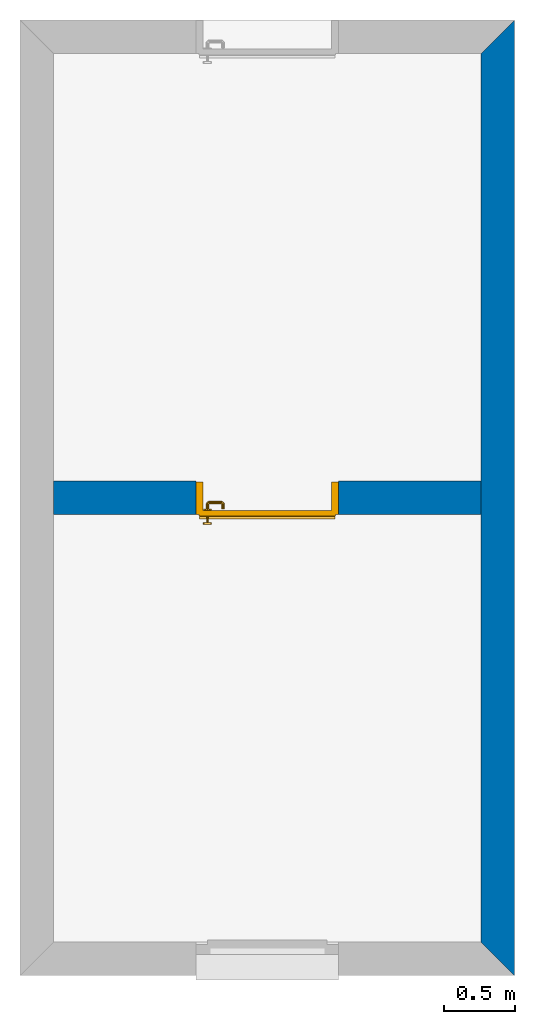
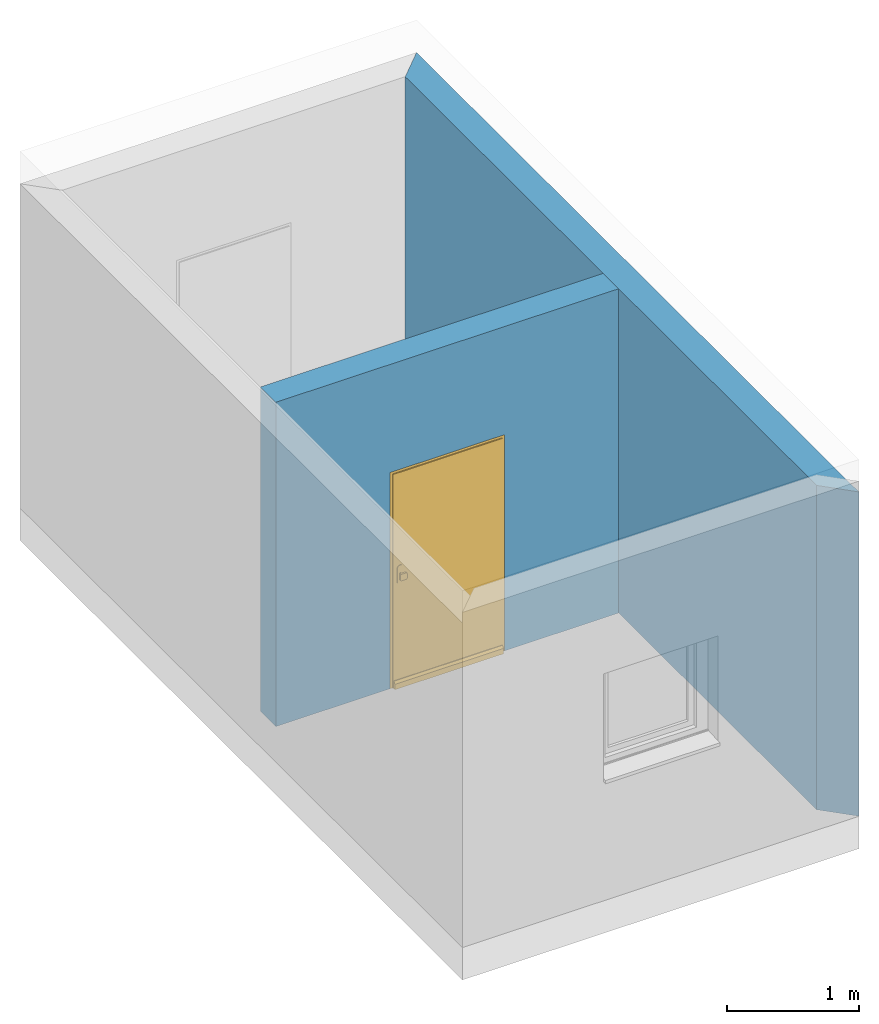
# One storey, part 2 of 4: 2 walls, 1 door, 1 opening.
"""IFC2X3 building model written with IfcOpenShell, lengths in millimetres."""

from ifc_helpers import new_model, entity, si_unit, converted_unit, money_unit, direction, frame, origin_with_axes, origin_2d_with_axis, place, context, subcontext, project, spatial, polyline, rectangle, outline, extrude, open_shell, faceted_brep, surface_model, source, transform, mapped, material, layer, layer_set, layer_usage, type_object, element, fill, save


model = new_model("IFC2X3")

# Units and contexts
model_context = context("Model", 3, precision=1e-05, world=origin_with_axes(), true_north=direction((0.0, 1.0)))
body_context = subcontext(model_context, "Body", "Model", "MODEL_VIEW")
ifc_project = project(units=[si_unit("LENGTHUNIT", "METRE", prefix="MILLI"), si_unit("AREAUNIT", "SQUARE_METRE"), si_unit("VOLUMEUNIT", "CUBIC_METRE"), converted_unit("PLANEANGLEUNIT", "DEGREE", entity("IfcPlaneAngleMeasure", 0.0174532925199), si_unit("PLANEANGLEUNIT", "RADIAN"), dimensions=[0, 0, 0, 0, 0, 0, 0]), si_unit("SOLIDANGLEUNIT", "STERADIAN"), money_unit("CHF"), converted_unit("TIMEUNIT", "Year", entity("IfcTimeMeasure", 31556926.0), si_unit("TIMEUNIT", "SECOND"), dimensions=[0, 0, 0, 0, 0, 0, 0]), si_unit("MASSUNIT", "GRAM"), si_unit("THERMODYNAMICTEMPERATUREUNIT", "DEGREE_CELSIUS"), si_unit("LUMINOUSINTENSITYUNIT", "LUMEN")], contexts=[model_context])

# Site, building, storey
site_placement = place(None, origin_with_axes())
site = spatial("IfcSite", under=ifc_project, at=site_placement, Name="Gel\x8ande", CompositionType="ELEMENT")
building_placement = place(site_placement, origin_with_axes())
building = spatial("IfcBuilding", under=site, at=building_placement, Name="Geb\x8aude", CompositionType="ELEMENT")
storey_placement = place(building_placement, frame((0.0, 0.0, 3100.0), z_axis=(0.0, 0.0, 1.0), x_axis=(1.0, 0.0, 0.0)))
storey = spatial("IfcBuildingStorey", under=building, at=storey_placement, Name="TowZone", CompositionType="ELEMENT", Elevation=3100.0)

# Wall
ifc_material_1 = material(Name="Verputz, Innen")
ifc_layer_1 = layer(ifc_material_1, 15.0, ventilated="UNKNOWN")
ifc_material_2 = material(Name="Beton, Stahlbeton")
ifc_layer_2 = layer(ifc_material_2, 200.0, ventilated="UNKNOWN")
ifc_material_3 = material(Name="Verputz, Aussen")
ifc_layer_3 = layer(ifc_material_3, 20.0, ventilated="UNKNOWN")
ifc_layer_set = layer_set([ifc_layer_1, ifc_layer_2, ifc_layer_3], Name="OneZone")
ifc_layer_usage_1 = layer_usage(ifc_layer_set, "AXIS2", "POSITIVE", 2.77555756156e-14)
wall_type = type_object("IfcWallType", Name="OneZone 235", PredefinedType="NOTDEFINED")
wall_1_placement = place(storey_placement, frame((5841.86610583, 3470.0, 0.0), z_axis=(0.0, 0.0, 1.0), x_axis=(0.0, -1.0, 0.0)))
element("IfcWallStandardCase", 1, at=wall_1_placement, inside=storey, type_object=wall_type, material=ifc_layer_usage_1, Name="Wand-001", context=body_context, shape_type="SweptSolid", body=[
    extrude(outline(polyline([(235.0, 0.0), (6470.0, 0.0), (6705.0, 235.0), (0.0, 235.0), (235.0, 0.0)])), origin_with_axes(), (0.0, 0.0, 1.0), 3000.0),
])

# Wall, opening, door
ifc_layer_usage_2 = layer_usage(ifc_layer_set, "AXIS2", "NEGATIVE", 235.0)
wall_2_placement = place(storey_placement, frame((5841.86610583, 235.0, 0.0), z_axis=(0.0, 0.0, 1.0), x_axis=(-1.0, 0.0, 0.0)))
wall_2 = element("IfcWallStandardCase", 2, at=wall_2_placement, inside=storey, type_object=wall_type, material=ifc_layer_usage_2, Name="Wand-001", context=body_context, shape_type="SweptSolid", body=[
    extrude(outline(polyline([(0.0, 0.0), (3000.0, 0.0), (3000.0, 235.0), (0.0, 235.0), (0.0, 0.0)])), origin_with_axes(), (0.0, 0.0, 1.0), 3000.0),
])
opening_placement = place(wall_2_placement, frame((1500.0, 0.0, 0.0), z_axis=(0.0, 0.0, 1.0), x_axis=(1.0, 0.0, 0.0)))
opening = element("IfcOpeningElement", 3, at=opening_placement, cuts=wall_2, Name="T\x9fr-001", context=body_context, shape_type="SweptSolid", body=[
    extrude(rectangle(XDim=1000.0, YDim=2000.0, at=origin_2d_with_axis()), frame((0.0, -235.0, 1000.0), z_axis=(0.0, -1.0, 0.0), x_axis=(-1.0, 0.0, 0.0)), (0.0, 0.0, -1.0), 705.0),
])
door_style = type_object("IfcDoorStyle", Name="Eingangst\x9fr 18", ConstructionType="NOTDEFINED", OperationType="SINGLE_SWING_LEFT", ParameterTakesPrecedence=False, Sizeable=False)
shared_shape = source(origin_with_axes(), body_context, "Body", "SurfaceModel", [
    faceted_brep([(-500.0, -230.0, 0.0), (-500.0, -230.0, 2000.0), (-500.0, -30.0, 2000.0), (-500.0, -30.0, 0.0), (-450.0, -230.0, 0.0), (-450.0, -230.0, 1950.0), (-130.1, -230.0, 1950.0), (-0.1, -230.0, 1950.0), (450.0, -230.0, 1950.0), (450.0, -230.0, 0.0), (500.0, -230.0, 0.0), (500.0, -230.0, 2000.0), (500.0, -30.0, 2000.0), (500.0, -30.0, 0.0), (450.0, -30.0, 0.0), (450.0, -30.0, 1950.0), (-0.1, -30.0, 1950.0), (-130.1, -30.0, 1950.0), (-450.0, -30.0, 1950.0), (-450.0, -30.0, 0.0)], [[[0, 1, 2, 3]], [[0, 4, 5, 6, 7, 8, 9, 10, 11, 1]], [[1, 11, 12, 2]], [[3, 2, 12, 13, 14, 15, 16, 17, 18, 19]], [[4, 0, 3, 19]], [[5, 4, 19, 18]], [[6, 5, 18, 17]], [[7, 6, 17, 16]], [[8, 7, 16, 15]], [[9, 8, 15, 14]], [[10, 9, 14, 13]], [[11, 10, 13, 12]]]),
    faceted_brep([(-500.0, -30.0, 0.0), (-500.0, -30.0, 2000.0), (-500.0, 0.0, 2000.0), (-500.0, 0.0, 0.0), (-480.0, -30.0, 0.0), (-480.0, -30.0, 1980.0), (-100.1, -30.0, 1980.0), (-30.1, -30.0, 1980.0), (480.0, -30.0, 1980.0), (480.0, -30.0, 0.0), (500.0, -30.0, 0.0), (500.0, -30.0, 2000.0), (500.0, 0.0, 2000.0), (500.0, 0.0, 0.0), (480.0, 0.0, 0.0), (480.0, 0.0, 1980.0), (-30.1, 0.0, 1980.0), (-100.1, 0.0, 1980.0), (-480.0, 0.0, 1980.0), (-480.0, 0.0, 0.0)], [[[0, 1, 2, 3]], [[0, 4, 5, 6, 7, 8, 9, 10, 11, 1]], [[1, 11, 12, 2]], [[3, 2, 12, 13, 14, 15, 16, 17, 18, 19]], [[4, 0, 3, 19]], [[5, 4, 19, 18]], [[6, 5, 18, 17]], [[7, 6, 17, 16]], [[8, 7, 16, 15]], [[9, 8, 15, 14]], [[10, 9, 14, 13]], [[11, 10, 13, 12]]]),
    faceted_brep([(-480.0, 10.0, 0.0), (-480.0, 10.0, 1980.0), (480.0, 10.0, 1980.0), (480.0, 10.0, 0.0), (-480.0, -30.0, 0.0), (-480.0, -30.0, 1980.0), (480.0, -30.0, 1980.0), (480.0, -30.0, 0.0)], [[[0, 1, 2, 3]], [[0, 4, 5, 1]], [[1, 5, 6, 2]], [[2, 6, 7, 3]], [[3, 7, 4, 0]], [[7, 6, 5, 4]]]),
    faceted_brep([(-475.0, 30.0, 0.0), (-475.0, 30.0, 50.0), (475.0, 30.0, 50.0), (475.0, 30.0, 0.0), (-475.0, 10.0, 0.0), (-475.0, 10.0, 70.0), (-475.0, 15.0, 70.0), (475.0, 15.0, 70.0), (475.0, 10.0, 70.0), (475.0, 10.0, 0.0)], [[[0, 1, 2, 3]], [[0, 4, 5, 6, 1]], [[1, 6, 7, 2]], [[3, 2, 7, 8, 9]], [[4, 0, 3, 9]], [[5, 4, 9, 8]], [[6, 5, 8, 7]]]),
    faceted_brep([(433.5, -40.0, 1073.3826859), (433.5, -39.9, 1073.3826859), (420.0, -39.9, 1077.0), (420.0, -40.0, 1077.0), (443.382685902, -40.0, 1063.5), (443.382685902, -39.9, 1063.5), (433.5, -30.1, 1073.3826859), (420.0, -30.1, 1077.0), (406.5, -39.9, 1073.3826859), (406.5, -40.0, 1073.3826859), (396.617314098, -40.0, 1063.5), (393.0, -40.0, 1050.0), (396.617314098, -40.0, 1036.5), (406.5, -40.0, 1026.6173141), (420.0, -40.0, 1023.0), (433.5, -40.0, 1026.6173141), (443.382685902, -40.0, 1036.5), (447.0, -40.0, 1050.0), (447.0, -39.9, 1050.0), (443.382685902, -30.1, 1063.5), (433.5, -30.0, 1073.3826859), (420.0, -30.0, 1077.0), (406.5, -30.1, 1073.3826859), (396.617314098, -39.9, 1063.5), (393.0, -39.9, 1050.0), (396.617314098, -39.9, 1036.5), (406.5, -39.9, 1026.6173141), (420.0, -39.9, 1023.0), (433.5, -39.9, 1026.6173141), (443.382685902, -39.9, 1036.5), (447.0, -30.1, 1050.0), (443.382685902, -30.0, 1063.5), (447.0, -30.0, 1050.0), (443.382685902, -30.0, 1036.5), (433.5, -30.0, 1026.6173141), (420.0, -30.0, 1023.0), (406.5, -30.0, 1026.6173141), (396.617314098, -30.0, 1036.5), (393.0, -30.0, 1050.0), (396.617314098, -30.0, 1063.5), (406.5, -30.0, 1073.3826859), (396.617314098, -30.1, 1063.5), (393.0, -30.1, 1050.0), (396.617314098, -30.1, 1036.5), (406.5, -30.1, 1026.6173141), (420.0, -30.1, 1023.0), (433.5, -30.1, 1026.6173141), (443.382685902, -30.1, 1036.5)], [[[0, 1, 2, 3]], [[4, 5, 1, 0]], [[1, 6, 7, 2]], [[3, 2, 8, 9]], [[3, 9, 10, 11, 12, 13, 14, 15, 16, 17, 4, 0]], [[17, 18, 5, 4]], [[5, 19, 6, 1]], [[6, 20, 21, 7]], [[2, 7, 22, 8]], [[9, 8, 23, 10]], [[10, 23, 24, 11]], [[11, 24, 25, 12]], [[12, 25, 26, 13]], [[13, 26, 27, 14]], [[14, 27, 28, 15]], [[15, 28, 29, 16]], [[16, 29, 18, 17]], [[18, 30, 19, 5]], [[19, 31, 20, 6]], [[21, 20, 31, 32, 33, 34, 35, 36, 37, 38, 39, 40]], [[7, 21, 40, 22]], [[8, 22, 41, 23]], [[23, 41, 42, 24]], [[24, 42, 43, 25]], [[25, 43, 44, 26]], [[26, 44, 45, 27]], [[27, 45, 46, 28]], [[28, 46, 47, 29]], [[29, 47, 30, 18]], [[30, 32, 31, 19]], [[47, 33, 32, 30]], [[46, 34, 33, 47]], [[45, 35, 34, 46]], [[44, 36, 35, 45]], [[43, 37, 36, 44]], [[42, 38, 37, 43]], [[41, 39, 38, 42]], [[22, 40, 39, 41]]]),
    faceted_brep([(412.532169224, -40.0, 959.692280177), (413.279754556, -40.0, 961.639806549), (406.55, -40.0, 973.296083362), (396.703916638, -40.0, 963.45), (415.0, -40.0, 952.886751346), (415.0, -40.0, 954.4), (412.532169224, -39.0, 959.692280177), (413.279754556, -39.0, 961.639806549), (414.624817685, -39.0, 965.143815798), (414.624817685, -40.0, 965.143815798), (420.0, -40.0, 967.425445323), (420.0, -40.0, 976.9), (396.617314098, -40.0, 963.5), (406.5, -40.0, 973.382685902), (393.1, -40.0, 950.0), (415.0, -40.0, 950.0), (415.0, -40.0, 947.113248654), (415.0, -40.0, 941.339745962), (415.0, -40.0, 937.5), (415.0, -39.0, 937.5), (415.0, -39.0, 941.339745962), (415.0, -39.0, 947.113248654), (415.0, -39.0, 950.0), (415.0, -39.0, 952.886751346), (415.0, -39.0, 954.4), (397.569942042, -39.0, 962.95), (407.05, -39.0, 972.430057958), (420.0, -39.0, 975.9), (420.0, -39.0, 967.425445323), (425.375182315, -40.0, 965.143815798), (426.720245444, -40.0, 961.639806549), (433.45, -40.0, 973.296083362), (420.0, -40.0, 977.0), (393.0, -40.0, 950.0), (396.617314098, -39.9, 963.5), (406.5, -39.9, 973.382685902), (396.703916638, -40.0, 936.55), (406.55, -40.0, 926.703916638), (420.0, -40.0, 923.1), (420.0, -40.0, 932.5), (416.464466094, -40.0, 933.964466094), (416.464466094, -39.0, 933.964466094), (420.0, -39.0, 932.5), (420.0, -39.0, 924.1), (407.05, -39.0, 927.569942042), (397.569942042, -39.0, 937.05), (394.1, -39.0, 950.0), (397.483339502, -39.0, 963.0), (407.0, -39.0, 972.516660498), (420.0, -39.0, 976.0), (425.375182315, -39.0, 965.143815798), (432.95, -39.0, 972.430057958), (426.720245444, -39.0, 961.639806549), (427.467830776, -39.0, 959.692280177), (427.467830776, -40.0, 959.692280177), (425.0, -40.0, 954.4), (425.0, -40.0, 952.886751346), (443.296083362, -40.0, 963.45), (433.5, -40.0, 973.382685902), (420.0, -39.9, 977.0), (396.617314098, -40.0, 936.5), (393.0, -39.9, 950.0), (396.617314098, -30.1, 963.5), (406.5, -30.1, 973.382685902), (406.5, -40.0, 926.617314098), (420.0, -40.0, 923.0), (423.535533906, -40.0, 933.964466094), (433.45, -40.0, 926.703916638), (425.0, -40.0, 941.339745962), (425.0, -40.0, 937.5), (425.0, -39.0, 937.5), (425.0, -39.0, 941.339745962), (432.95, -39.0, 927.569942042), (423.535533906, -39.0, 933.964466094), (420.0, -39.0, 924.0), (407.0, -39.0, 927.483339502), (397.483339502, -39.0, 937.0), (394.0, -39.0, 950.0), (397.483339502, -38.9, 963.0), (407.0, -38.9, 972.516660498), (420.0, -38.9, 976.0), (433.0, -39.0, 972.516660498), (442.430057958, -39.0, 962.95), (425.0, -39.0, 952.886751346), (425.0, -39.0, 954.4), (425.0, -39.0, 950.0), (425.0, -39.0, 947.113248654), (425.0, -40.0, 947.113248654), (425.0, -40.0, 950.0), (446.9, -40.0, 950.0), (443.382685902, -40.0, 963.5), (433.5, -39.9, 973.382685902), (420.0, -30.1, 977.0), (396.617314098, -39.9, 936.5), (393.0, -30.1, 950.0), (396.617314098, -30.0, 963.5), (406.5, -30.0, 973.382685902), (406.5, -39.9, 926.617314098), (433.5, -40.0, 926.617314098), (420.0, -39.9, 923.0), (443.296083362, -40.0, 936.55), (442.430057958, -39.0, 937.05), (433.0, -39.0, 927.483339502), (420.0, -38.9, 924.0), (407.0, -38.9, 927.483339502), (397.483339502, -38.9, 937.0), (394.0, -38.9, 950.0), (397.483339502, -30.1, 963.0), (407.0, -30.1, 972.516660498), (420.0, -30.1, 976.0), (433.0, -38.9, 972.516660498), (442.516660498, -39.0, 963.0), (445.9, -39.0, 950.0), (447.0, -40.0, 950.0), (443.382685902, -39.9, 963.5), (433.5, -30.1, 973.382685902), (420.0, -30.0, 977.0), (396.617314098, -30.1, 936.5), (393.0, -30.0, 950.0), (396.703916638, -30.0, 963.45), (406.55, -30.0, 973.296083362), (406.5, -30.1, 926.617314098), (443.382685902, -40.0, 936.5), (433.5, -39.9, 926.617314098), (420.0, -30.1, 923.0), (442.516660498, -39.0, 937.0), (433.0, -38.9, 927.483339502), (420.0, -30.1, 924.0), (407.0, -30.1, 927.483339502), (397.483339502, -30.1, 937.0), (394.0, -30.1, 950.0), (397.483339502, -30.0, 963.0), (407.0, -30.0, 972.516660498), (420.0, -30.0, 976.0), (433.0, -30.1, 972.516660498), (442.516660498, -38.9, 963.0), (446.0, -39.0, 950.0), (447.0, -39.9, 950.0), (443.382685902, -30.1, 963.5), (433.5, -30.0, 973.382685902), (420.0, -30.0, 976.9), (396.617314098, -30.0, 936.5), (393.1, -30.0, 950.0), (397.396736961, -30.0, 963.05), (406.95, -30.0, 972.603263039), (406.5, -30.0, 926.617314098), (443.382685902, -39.9, 936.5), (433.5, -30.1, 926.617314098), (420.0, -30.0, 923.0), (442.516660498, -38.9, 937.0), (433.0, -30.1, 927.483339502), (420.0, -30.0, 924.0), (407.0, -30.0, 927.483339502), (397.483339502, -30.0, 937.0), (394.0, -30.0, 950.0), (420.0, -30.0, 976.1), (433.0, -30.0, 972.516660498), (442.516660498, -30.1, 963.0), (446.0, -38.9, 950.0), (447.0, -30.1, 950.0), (443.382685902, -30.0, 963.5), (433.45, -30.0, 973.296083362), (396.703916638, -30.0, 936.55), (393.9, -30.0, 950.0), (406.55, -30.0, 926.703916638), (443.382685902, -30.1, 936.5), (433.5, -30.0, 926.617314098), (420.0, -30.0, 923.1), (442.516660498, -30.1, 937.0), (433.0, -30.0, 927.483339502), (420.0, -30.0, 923.9), (406.95, -30.0, 927.396736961), (397.396736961, -30.0, 936.95), (433.05, -30.0, 972.603263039), (442.516660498, -30.0, 963.0), (446.0, -30.1, 950.0), (447.0, -30.0, 950.0), (443.296083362, -30.0, 963.45), (443.382685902, -30.0, 936.5), (433.45, -30.0, 926.703916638), (442.516660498, -30.0, 937.0), (433.05, -30.0, 927.396736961), (442.603263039, -30.0, 963.05), (446.0, -30.0, 950.0), (446.9, -30.0, 950.0), (443.296083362, -30.0, 936.55), (442.603263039, -30.0, 936.95), (446.1, -30.0, 950.0)], [[[0, 1, 2, 3, 4, 5]], [[0, 6, 7, 8, 9, 1]], [[9, 10, 11, 2, 1]], [[12, 3, 2, 13]], [[3, 14, 15, 4]], [[5, 4, 15, 16, 17, 18, 19, 20, 21, 22, 23, 24]], [[5, 24, 6, 0]], [[6, 24, 23, 25, 26, 7]], [[8, 7, 26, 27, 28]], [[9, 8, 28, 10]], [[29, 30, 31, 11, 10]], [[13, 2, 11, 32]], [[33, 14, 3, 12]], [[34, 12, 13, 35]], [[14, 36, 16, 15]], [[36, 37, 17, 16]], [[18, 17, 37, 38, 39, 40]], [[41, 19, 18, 40]], [[41, 42, 43, 44, 20, 19]], [[44, 45, 21, 20]], [[45, 46, 22, 21]], [[46, 25, 23, 22]], [[25, 47, 48, 26]], [[26, 48, 49, 27]], [[50, 28, 27, 51, 52]], [[10, 28, 50, 29]], [[29, 50, 52, 53, 54, 30]], [[54, 55, 56, 57, 31, 30]], [[32, 11, 31, 58]], [[35, 13, 32, 59]], [[60, 36, 14, 33]], [[61, 33, 12, 34]], [[62, 34, 35, 63]], [[64, 37, 36, 60]], [[65, 38, 37, 64]], [[66, 39, 38, 67, 68, 69]], [[42, 41, 40, 39]], [[70, 71, 72, 43, 42, 73]], [[43, 74, 75, 44]], [[44, 75, 76, 45]], [[45, 76, 77, 46]], [[46, 77, 47, 25]], [[47, 78, 79, 48]], [[48, 79, 80, 49]], [[27, 49, 81, 51]], [[53, 52, 51, 82, 83, 84]], [[54, 53, 84, 55]], [[84, 83, 85, 86, 71, 70, 69, 68, 87, 88, 56, 55]], [[89, 57, 56, 88]], [[58, 31, 57, 90]], [[59, 32, 58, 91]], [[63, 35, 59, 92]], [[93, 60, 33, 61]], [[94, 61, 34, 62]], [[95, 62, 63, 96]], [[97, 64, 60, 93]], [[98, 67, 38, 65]], [[99, 65, 64, 97]], [[73, 42, 39, 66]], [[67, 100, 87, 68]], [[70, 73, 66, 69]], [[101, 72, 71, 86]], [[72, 102, 74, 43]], [[74, 103, 104, 75]], [[75, 104, 105, 76]], [[76, 105, 106, 77]], [[77, 106, 78, 47]], [[78, 107, 108, 79]], [[79, 108, 109, 80]], [[49, 80, 110, 81]], [[51, 81, 111, 82]], [[82, 112, 85, 83]], [[112, 101, 86, 85]], [[100, 89, 88, 87]], [[90, 57, 89, 113]], [[91, 58, 90, 114]], [[92, 59, 91, 115]], [[96, 63, 92, 116]], [[117, 93, 61, 94]], [[118, 94, 62, 95]], [[119, 95, 96, 120]], [[121, 97, 93, 117]], [[122, 100, 67, 98]], [[123, 98, 65, 99]], [[124, 99, 97, 121]], [[101, 125, 102, 72]], [[102, 126, 103, 74]], [[103, 127, 128, 104]], [[104, 128, 129, 105]], [[105, 129, 130, 106]], [[106, 130, 107, 78]], [[107, 131, 132, 108]], [[108, 132, 133, 109]], [[80, 109, 134, 110]], [[81, 110, 135, 111]], [[82, 111, 136, 112]], [[112, 136, 125, 101]], [[113, 89, 100, 122]], [[114, 90, 113, 137]], [[115, 91, 114, 138]], [[116, 92, 115, 139]], [[120, 96, 116, 140]], [[141, 117, 94, 118]], [[142, 118, 95, 119]], [[143, 119, 120, 144]], [[145, 121, 117, 141]], [[146, 122, 98, 123]], [[147, 123, 99, 124]], [[148, 124, 121, 145]], [[125, 149, 126, 102]], [[126, 150, 127, 103]], [[127, 151, 152, 128]], [[128, 152, 153, 129]], [[129, 153, 154, 130]], [[130, 154, 131, 107]], [[131, 143, 144, 132]], [[132, 144, 155, 133]], [[109, 133, 156, 134]], [[110, 134, 157, 135]], [[111, 135, 158, 136]], [[136, 158, 149, 125]], [[137, 113, 122, 146]], [[138, 114, 137, 159]], [[139, 115, 138, 160]], [[140, 116, 139, 161]], [[144, 120, 140, 155]], [[162, 141, 118, 142]], [[163, 142, 119, 143]], [[164, 145, 141, 162]], [[165, 146, 123, 147]], [[166, 147, 124, 148]], [[167, 148, 145, 164]], [[149, 168, 150, 126]], [[150, 169, 151, 127]], [[151, 170, 171, 152]], [[152, 171, 172, 153]], [[153, 172, 163, 154]], [[154, 163, 143, 131]], [[133, 155, 173, 156]], [[134, 156, 174, 157]], [[135, 157, 175, 158]], [[158, 175, 168, 149]], [[159, 137, 146, 165]], [[160, 138, 159, 176]], [[161, 139, 160, 177]], [[155, 140, 161, 173]], [[172, 162, 142, 163]], [[171, 164, 162, 172]], [[178, 165, 147, 166]], [[179, 166, 148, 167]], [[170, 167, 164, 171]], [[168, 180, 169, 150]], [[169, 181, 170, 151]], [[156, 173, 182, 174]], [[157, 174, 183, 175]], [[175, 183, 180, 168]], [[176, 159, 165, 178]], [[177, 160, 176, 184]], [[173, 161, 177, 182]], [[185, 178, 166, 179]], [[181, 179, 167, 170]], [[180, 186, 181, 169]], [[174, 182, 187, 183]], [[183, 187, 186, 180]], [[184, 176, 178, 185]], [[182, 177, 184, 187]], [[186, 185, 179, 181]], [[187, 184, 185, 186]]]),
    surface_model("IfcShellBasedSurfaceModel", [(430.0, -40.0, 1050.0), (430.0, -70.9849140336, 1050.0), (427.071067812, -70.696439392, 1042.92893219), (427.071067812, -40.0, 1042.92893219), (427.071067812, -40.0, 1057.07106781), (427.071067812, -70.696439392, 1057.07106781), (428.277987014, -79.6420579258, 1050.0), (425.518993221, -78.4992452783, 1042.92893219), (420.0, -70.0, 1040.0), (420.0, -40.0, 1040.0), (420.0, -40.0, 1060.0), (420.0, -70.0, 1060.0), (425.518993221, -78.4992452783, 1057.07106781), (422.816199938, -87.8161999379, 1050.0), (420.704557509, -85.7045575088, 1042.92893219), (418.858192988, -75.7402514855, 1040.0), (412.928932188, -69.303560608, 1042.92893219), (412.928932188, -40.0, 1042.92893219), (412.928932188, -40.0, 1057.07106781), (412.928932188, -69.303560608, 1057.07106781), (418.858192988, -75.7402514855, 1060.0), (420.704557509, -85.7045575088, 1057.07106781), (414.642057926, -93.2779870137, 1050.0), (413.499245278, -90.5189932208, 1042.92893219), (415.606601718, -80.6066017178, 1040.0), (412.197392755, -72.9812576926, 1042.92893219), (410.0, -69.0150859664, 1050.0), (410.0, -40.0, 1050.0), (412.197392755, -72.9812576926, 1057.07106781), (415.606601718, -80.6066017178, 1060.0), (413.499245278, -90.5189932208, 1057.07106781), (405.984914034, -95.0, 1050.0), (405.696439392, -92.0710678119, 1042.92893219), (410.740251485, -83.8581929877, 1040.0), (410.508645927, -75.5086459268, 1042.92893219), (409.438398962, -71.8384450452, 1050.0), (410.508645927, -75.5086459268, 1057.07106781), (410.740251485, -83.8581929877, 1060.0), (405.696439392, -92.0710678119, 1057.07106781), (324.015085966, -95.0, 1050.0), (324.303560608, -92.0710678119, 1042.92893219), (405.0, -85.0, 1040.0), (407.981257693, -77.1973927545, 1042.92893219), (408.397003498, -73.3970034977, 1050.0), (407.981257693, -77.1973927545, 1057.07106781), (405.0, -85.0, 1060.0), (324.303560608, -92.0710678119, 1057.07106781), (315.357942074, -93.2779870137, 1050.0), (316.500754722, -90.5189932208, 1042.92893219), (325.0, -85.0, 1040.0), (404.303560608, -77.9289321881, 1042.92893219), (406.838445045, -74.4383989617, 1050.0), (404.303560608, -77.9289321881, 1057.07106781), (325.0, -85.0, 1060.0), (316.500754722, -90.5189932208, 1057.07106781), (307.183800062, -87.8161999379, 1050.0), (309.295442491, -85.7045575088, 1042.92893219), (319.259748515, -83.8581929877, 1040.0), (325.696439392, -77.9289321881, 1042.92893219), (404.015085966, -75.0, 1050.0), (325.696439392, -77.9289321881, 1057.07106781), (319.259748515, -83.8581929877, 1060.0), (309.295442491, -85.7045575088, 1057.07106781), (301.722012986, -79.6420579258, 1050.0), (304.481006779, -78.4992452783, 1042.92893219), (314.393398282, -80.6066017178, 1040.0), (322.018742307, -77.1973927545, 1042.92893219), (325.984914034, -75.0, 1050.0), (322.018742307, -77.1973927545, 1057.07106781), (314.393398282, -80.6066017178, 1060.0), (304.481006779, -78.4992452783, 1057.07106781), (300.0, -70.9849140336, 1050.0), (302.928932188, -70.696439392, 1042.92893219), (311.141807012, -75.7402514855, 1040.0), (319.491354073, -75.5086459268, 1042.92893219), (323.161554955, -74.4383989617, 1050.0), (319.491354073, -75.5086459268, 1057.07106781), (311.141807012, -75.7402514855, 1060.0), (302.928932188, -70.696439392, 1057.07106781), (300.0, -40.0, 1050.0), (302.928932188, -40.0, 1042.92893219), (310.0, -70.0, 1040.0), (317.802607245, -72.9812576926, 1042.92893219), (321.602996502, -73.3970034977, 1050.0), (317.802607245, -72.9812576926, 1057.07106781), (310.0, -70.0, 1060.0), (302.928932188, -40.0, 1057.07106781), (310.0, -40.0, 1060.0), (317.071067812, -40.0, 1057.07106781), (320.0, -40.0, 1050.0), (317.071067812, -40.0, 1042.92893219), (310.0, -40.0, 1040.0), (317.071067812, -69.303560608, 1042.92893219), (320.561601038, -71.8384450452, 1050.0), (317.071067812, -69.303560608, 1057.07106781), (320.0, -69.0150859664, 1050.0)], [open_shell([[[0, 1, 2, 3]], [[4, 5, 1, 0]], [[1, 6, 7, 2]], [[3, 2, 8, 9]], [[10, 11, 5, 4]], [[5, 12, 6, 1]], [[6, 13, 14, 7]], [[2, 7, 15, 8]], [[9, 8, 16, 17]], [[18, 19, 11, 10]], [[11, 20, 12, 5]], [[12, 21, 13, 6]], [[13, 22, 23, 14]], [[7, 14, 24, 15]], [[8, 15, 25, 16]], [[17, 16, 26, 27]], [[27, 26, 19, 18]], [[19, 28, 20, 11]], [[20, 29, 21, 12]], [[21, 30, 22, 13]], [[22, 31, 32, 23]], [[14, 23, 33, 24]], [[15, 24, 34, 25]], [[16, 25, 35, 26]], [[26, 35, 28, 19]], [[28, 36, 29, 20]], [[29, 37, 30, 21]], [[30, 38, 31, 22]], [[31, 39, 40, 32]], [[23, 32, 41, 33]], [[24, 33, 42, 34]], [[25, 34, 43, 35]], [[35, 43, 36, 28]], [[36, 44, 37, 29]], [[37, 45, 38, 30]], [[38, 46, 39, 31]], [[39, 47, 48, 40]], [[32, 40, 49, 41]], [[33, 41, 50, 42]], [[34, 42, 51, 43]], [[43, 51, 44, 36]], [[44, 52, 45, 37]], [[45, 53, 46, 38]], [[46, 54, 47, 39]], [[47, 55, 56, 48]], [[40, 48, 57, 49]], [[41, 49, 58, 50]], [[42, 50, 59, 51]], [[51, 59, 52, 44]], [[52, 60, 53, 45]], [[53, 61, 54, 46]], [[54, 62, 55, 47]], [[55, 63, 64, 56]], [[48, 56, 65, 57]], [[49, 57, 66, 58]], [[50, 58, 67, 59]], [[59, 67, 60, 52]], [[60, 68, 61, 53]], [[61, 69, 62, 54]], [[62, 70, 63, 55]], [[63, 71, 72, 64]], [[56, 64, 73, 65]], [[57, 65, 74, 66]], [[58, 66, 75, 67]], [[67, 75, 68, 60]], [[68, 76, 69, 61]], [[69, 77, 70, 62]], [[70, 78, 71, 63]], [[71, 79, 80, 72]], [[64, 72, 81, 73]], [[65, 73, 82, 74]], [[66, 74, 83, 75]], [[75, 83, 76, 68]], [[76, 84, 77, 69]], [[77, 85, 78, 70]], [[78, 86, 79, 71]], [[79, 86, 87, 88, 89, 90, 91, 80]], [[72, 80, 91, 81]], [[73, 81, 92, 82]], [[74, 82, 93, 83]], [[83, 93, 84, 76]], [[84, 94, 85, 77]], [[85, 87, 86, 78]], [[94, 88, 87, 85]], [[95, 89, 88, 94]], [[92, 90, 89, 95]], [[81, 91, 90, 92]], [[82, 92, 95, 93]], [[93, 95, 94, 84]]])]),
    faceted_brep([(414.696699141, 15.0, 1044.69669914), (420.0, 15.0, 1042.5), (425.303300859, 15.0, 1044.69669914), (427.5, 15.0, 1050.0), (425.303300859, 15.0, 1055.30330086), (420.0, 15.0, 1057.5), (414.696699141, 15.0, 1055.30330086), (412.5, 15.0, 1050.0), (414.696699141, 55.0, 1044.69669914), (420.0, 55.0, 1042.5), (425.303300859, 55.0, 1044.69669914), (427.5, 55.0, 1050.0), (425.303300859, 55.0, 1055.30330086), (420.0, 55.0, 1057.5), (414.696699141, 55.0, 1055.30330086), (412.5, 55.0, 1050.0)], [[[0, 1, 2, 3, 4, 5, 6, 7]], [[1, 0, 8, 9]], [[2, 1, 9, 10]], [[3, 2, 10, 11]], [[4, 3, 11, 12]], [[5, 4, 12, 13]], [[6, 5, 13, 14]], [[7, 6, 14, 15]], [[0, 7, 15, 8]], [[8, 15, 14, 13, 12, 11, 10, 9]]]),
    faceted_brep([(445.0, 10.0, 975.0), (443.096988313, 10.0, 965.432914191), (443.096988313, 15.0, 965.432914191), (445.0, 15.0, 975.0), (445.0, 10.0, 1100.0), (443.096988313, 10.0, 1109.56708581), (437.67766953, 10.0, 1117.67766953), (429.567085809, 10.0, 1123.09698831), (420.0, 10.0, 1125.0), (410.432914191, 10.0, 1123.09698831), (402.32233047, 10.0, 1117.67766953), (396.903011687, 10.0, 1109.56708581), (395.0, 10.0, 1100.0), (395.0, 10.0, 975.0), (396.903011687, 10.0, 965.432914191), (402.32233047, 10.0, 957.32233047), (410.432914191, 10.0, 951.903011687), (420.0, 10.0, 950.0), (429.567085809, 10.0, 951.903011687), (437.67766953, 10.0, 957.32233047), (437.67766953, 15.0, 957.32233047), (429.567085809, 15.0, 951.903011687), (420.0, 15.0, 950.0), (410.432914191, 15.0, 951.903011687), (402.32233047, 15.0, 957.32233047), (396.903011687, 15.0, 965.432914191), (395.0, 15.0, 975.0), (395.0, 15.0, 1100.0), (396.903011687, 15.0, 1109.56708581), (402.32233047, 15.0, 1117.67766953), (410.432914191, 15.0, 1123.09698831), (420.0, 15.0, 1125.0), (429.567085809, 15.0, 1123.09698831), (437.67766953, 15.0, 1117.67766953), (443.096988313, 15.0, 1109.56708581), (445.0, 15.0, 1100.0)], [[[0, 1, 2, 3]], [[0, 4, 5, 6, 7, 8, 9, 10, 11, 12, 13, 14, 15, 16, 17, 18, 19, 1]], [[1, 19, 20, 2]], [[3, 2, 20, 21, 22, 23, 24, 25, 26, 27, 28, 29, 30, 31, 32, 33, 34, 35]], [[4, 0, 3, 35]], [[5, 4, 35, 34]], [[6, 5, 34, 33]], [[7, 6, 33, 32]], [[8, 7, 32, 31]], [[9, 8, 31, 30]], [[10, 9, 30, 29]], [[11, 10, 29, 28]], [[12, 11, 28, 27]], [[13, 12, 27, 26]], [[14, 13, 26, 25]], [[15, 14, 25, 24]], [[16, 15, 24, 23]], [[17, 16, 23, 22]], [[18, 17, 22, 21]], [[19, 18, 21, 20]]]),
    faceted_brep([(440.0, 55.0, 1080.0), (445.0, 55.0, 1078.66025404), (445.0, 70.0, 1078.66025404), (440.0, 70.0, 1080.0), (400.0, 55.0, 1080.0), (395.0, 55.0, 1078.66025404), (391.339745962, 55.0, 1075.0), (390.0, 55.0, 1070.0), (390.0, 55.0, 1030.0), (391.339745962, 55.0, 1025.0), (395.0, 55.0, 1021.33974596), (400.0, 55.0, 1020.0), (440.0, 55.0, 1020.0), (445.0, 55.0, 1021.33974596), (448.660254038, 55.0, 1025.0), (450.0, 55.0, 1030.0), (450.0, 55.0, 1070.0), (448.660254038, 55.0, 1075.0), (448.660254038, 70.0, 1075.0), (450.0, 70.0, 1070.0), (450.0, 70.0, 1030.0), (448.660254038, 70.0, 1025.0), (445.0, 70.0, 1021.33974596), (440.0, 70.0, 1020.0), (400.0, 70.0, 1020.0), (395.0, 70.0, 1021.33974596), (391.339745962, 70.0, 1025.0), (390.0, 70.0, 1030.0), (390.0, 70.0, 1070.0), (391.339745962, 70.0, 1075.0), (395.0, 70.0, 1078.66025404), (400.0, 70.0, 1080.0)], [[[0, 1, 2, 3]], [[0, 4, 5, 6, 7, 8, 9, 10, 11, 12, 13, 14, 15, 16, 17, 1]], [[1, 17, 18, 2]], [[3, 2, 18, 19, 20, 21, 22, 23, 24, 25, 26, 27, 28, 29, 30, 31]], [[4, 0, 3, 31]], [[5, 4, 31, 30]], [[6, 5, 30, 29]], [[7, 6, 29, 28]], [[8, 7, 28, 27]], [[9, 8, 27, 26]], [[10, 9, 26, 25]], [[11, 10, 25, 24]], [[12, 11, 24, 23]], [[13, 12, 23, 22]], [[14, 13, 22, 21]], [[15, 14, 21, 20]], [[16, 15, 20, 19]], [[17, 16, 19, 18]]]),
])
door_placement = place(opening_placement, frame((-500.0, 0.0, 0.0), z_axis=(0.0, 0.0, 1.0), x_axis=(1.0, 0.0, 0.0)))
door = element("IfcDoor", 4, at=door_placement, inside=storey, type_object=door_style, Name="T\x9fr-001", OverallHeight=2000.0, OverallWidth=1000.0, context=body_context, shape_type="MappedRepresentation", body=[
    mapped(shared_shape, transform((500.0, 235.0, 0.0))),
])
fill(opening, door)

save(model, "model.ifc")
